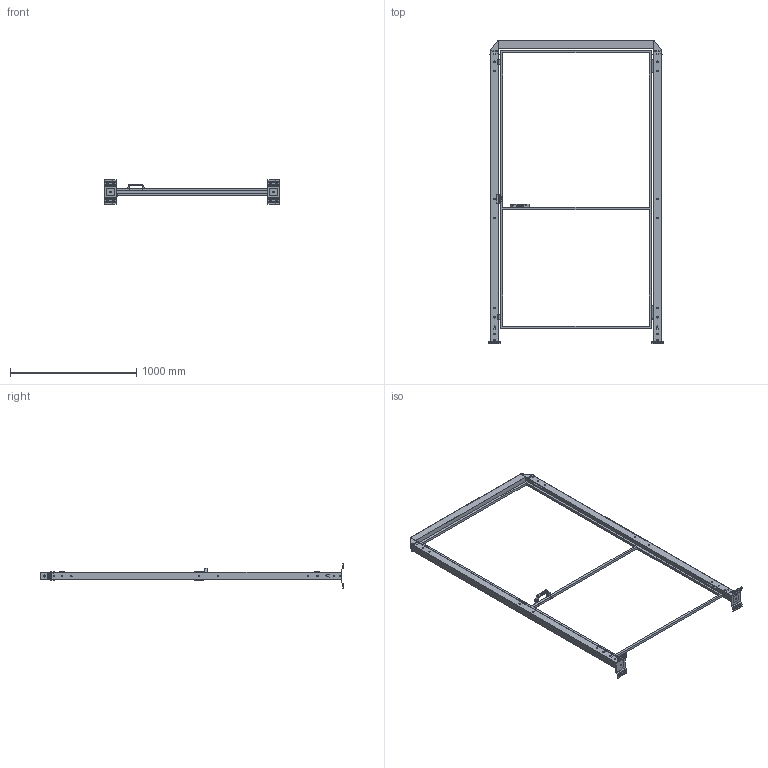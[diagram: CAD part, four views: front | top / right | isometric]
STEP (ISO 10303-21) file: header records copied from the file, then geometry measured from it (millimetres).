
FILE_DESCRIPTION(('STEP AP242'),'1');
FILE_NAME('vfda_bscndr2_12002320.stp','2025-01-23T13:46:45',('TraceParts'),('TraceParts S.A.'),'Spatial InterOp 3D',' ',' ');
FILE_SCHEMA(('AP242_MANAGED_MODEL_BASED_3D_ENGINEERING_MIM_LF {1 0 10303 442 1 1 4}'));
Length unit declared in the file: millimetre
Products named in the file (1): vfda_bscndr2_12002320_1
Bounding box: 1390 x 2401 x 192 mm (x, y, z)
Volume: 5639732.7 mm3; surface area: 3610836.2 mm2
Topology: 12 solids, 12 shells, 1874 faces, 5016 edges, 3212 vertices
Faces by surface type: plane 906, cylinder 628, bspline 236, cone 60, torus 40, sphere 4
Entity records: 75648 total; most frequent: CARTESIAN_POINT 13827, ORIENTED_EDGE 10024, DIRECTION 9202, EDGE_CURVE 5012, VERTEX_POINT 3212, LINE 3072, VECTOR 3072, AXIS2_PLACEMENT_3D 3065
